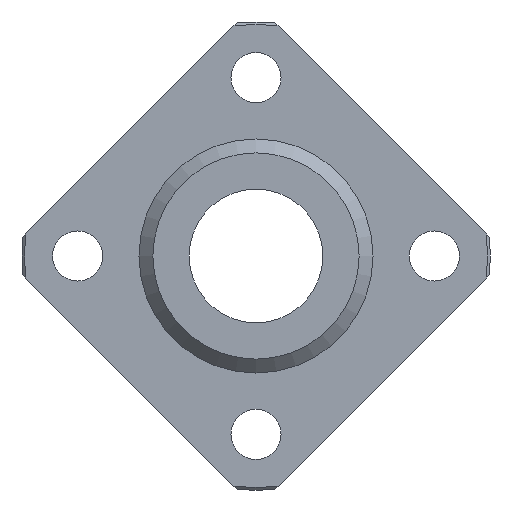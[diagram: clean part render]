
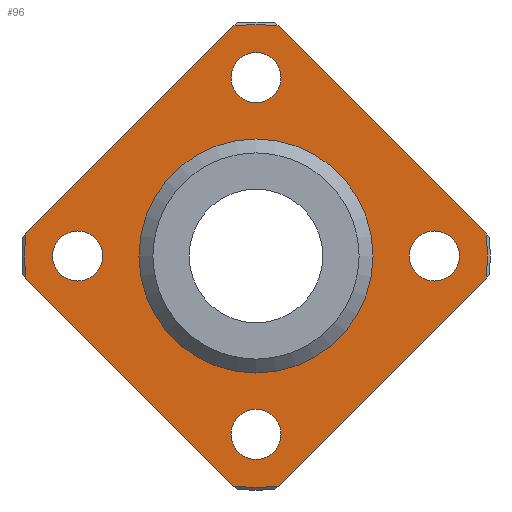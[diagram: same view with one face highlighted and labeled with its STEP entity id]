
A CAD part, left-side view. The second image highlights one B-rep face of the part: STEP entity #96.
In plain terms, the highlighted planar face has unit normal (-1, 0, 0).
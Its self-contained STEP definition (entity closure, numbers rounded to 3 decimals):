
#96=ADVANCED_FACE('',(#161,#162,#163,#164,#165,#166),#167,.F.);
#161=FACE_BOUND('',#255,.T.);
#162=FACE_BOUND('',#256,.T.);
#163=FACE_BOUND('',#257,.T.);
#164=FACE_BOUND('',#258,.T.);
#165=FACE_BOUND('',#259,.T.);
#166=FACE_OUTER_BOUND('',#260,.T.);
#167=PLANE('',#261);
#255=EDGE_LOOP('',(#462));
#256=EDGE_LOOP('',(#463));
#257=EDGE_LOOP('',(#464));
#258=EDGE_LOOP('',(#465));
#259=EDGE_LOOP('',(#466));
#260=EDGE_LOOP('',(#467,#468,#469,#470,#471,#472,#473,#474));
#261=AXIS2_PLACEMENT_3D('',#475,#476,#477);
#462=ORIENTED_EDGE('',*,*,#597,.T.);
#463=ORIENTED_EDGE('',*,*,#598,.T.);
#464=ORIENTED_EDGE('',*,*,#599,.T.);
#465=ORIENTED_EDGE('',*,*,#596,.T.);
#466=ORIENTED_EDGE('',*,*,#594,.F.);
#467=ORIENTED_EDGE('',*,*,#592,.T.);
#468=ORIENTED_EDGE('',*,*,#540,.T.);
#469=ORIENTED_EDGE('',*,*,#591,.T.);
#470=ORIENTED_EDGE('',*,*,#566,.T.);
#471=ORIENTED_EDGE('',*,*,#588,.T.);
#472=ORIENTED_EDGE('',*,*,#558,.T.);
#473=ORIENTED_EDGE('',*,*,#546,.T.);
#474=ORIENTED_EDGE('',*,*,#552,.T.);
#475=CARTESIAN_POINT('',(-9.0,20.746,0.0));
#476=DIRECTION('',(1.0,0.0,0.0));
#477=DIRECTION('',(0.0,0.0,-1.0));
#540=EDGE_CURVE('',#612,#610,#613,.T.);
#546=EDGE_CURVE('',#623,#624,#625,.T.);
#552=EDGE_CURVE('',#624,#634,#636,.T.);
#558=EDGE_CURVE('',#646,#623,#647,.T.);
#566=EDGE_CURVE('',#662,#660,#663,.T.);
#588=EDGE_CURVE('',#660,#646,#694,.T.);
#591=EDGE_CURVE('',#610,#662,#699,.T.);
#592=EDGE_CURVE('',#634,#612,#700,.T.);
#594=EDGE_CURVE('',#703,#703,#704,.T.);
#596=EDGE_CURVE('',#707,#707,#708,.T.);
#597=EDGE_CURVE('',#709,#709,#710,.T.);
#598=EDGE_CURVE('',#711,#711,#712,.T.);
#599=EDGE_CURVE('',#713,#713,#714,.T.);
#610=VERTEX_POINT('',#733);
#612=VERTEX_POINT('',#738);
#613=LINE('',#739,#740);
#623=VERTEX_POINT('',#761);
#624=VERTEX_POINT('',#762);
#625=CIRCLE('',#763,20.746);
#634=VERTEX_POINT('',#779);
#636=LINE('',#784,#785);
#646=VERTEX_POINT('',#804);
#647=LINE('',#805,#806);
#660=VERTEX_POINT('',#831);
#662=VERTEX_POINT('',#836);
#663=LINE('',#837,#838);
#694=CIRCLE('',#880,20.746);
#699=CIRCLE('',#885,20.746);
#700=CIRCLE('',#886,20.746);
#703=VERTEX_POINT('',#889);
#704=CIRCLE('',#890,10.5);
#707=VERTEX_POINT('',#893);
#708=CIRCLE('',#894,2.25);
#709=VERTEX_POINT('',#895);
#710=CIRCLE('',#896,2.25);
#711=VERTEX_POINT('',#897);
#712=CIRCLE('',#898,2.25);
#713=VERTEX_POINT('',#899);
#714=CIRCLE('',#900,2.25);
#733=CARTESIAN_POINT('',(-9.0,1.976,-20.652));
#738=CARTESIAN_POINT('',(-9.0,20.652,-1.976));
#739=CARTESIAN_POINT('',(-9.0,21.687,-0.941));
#740=VECTOR('',#916,1.0);
#761=CARTESIAN_POINT('',(-9.0,-1.976,20.652));
#762=CARTESIAN_POINT('',(-9.0,1.976,20.652));
#763=AXIS2_PLACEMENT_3D('',#919,#920,#921);
#779=CARTESIAN_POINT('',(-9.0,20.652,1.976));
#784=CARTESIAN_POINT('',(-9.0,21.687,0.941));
#785=VECTOR('',#926,1.0);
#804=CARTESIAN_POINT('',(-9.0,-20.652,1.976));
#805=CARTESIAN_POINT('',(-9.0,-0.941,21.687));
#806=VECTOR('',#930,1.0);
#831=CARTESIAN_POINT('',(-9.0,-20.652,-1.976));
#836=CARTESIAN_POINT('',(-9.0,-1.976,-20.652));
#837=CARTESIAN_POINT('',(-9.0,-0.941,-21.687));
#838=VECTOR('',#934,1.0);
#880=AXIS2_PLACEMENT_3D('',#985,#986,#987);
#885=AXIS2_PLACEMENT_3D('',#994,#995,#996);
#886=AXIS2_PLACEMENT_3D('',#997,#998,#999);
#889=CARTESIAN_POINT('',(-9.0,0.0,10.5));
#890=AXIS2_PLACEMENT_3D('',#1003,#1004,#1005);
#893=CARTESIAN_POINT('',(-9.0,0.0,13.75));
#894=AXIS2_PLACEMENT_3D('',#1009,#1010,#1011);
#895=CARTESIAN_POINT('',(-9.0,-16.0,-2.25));
#896=AXIS2_PLACEMENT_3D('',#1012,#1013,#1014);
#897=CARTESIAN_POINT('',(-9.0,0.0,-18.25));
#898=AXIS2_PLACEMENT_3D('',#1015,#1016,#1017);
#899=CARTESIAN_POINT('',(-9.0,16.0,-2.25));
#900=AXIS2_PLACEMENT_3D('',#1018,#1019,#1020);
#916=DIRECTION('',(0.0,-0.707,-0.707));
#919=CARTESIAN_POINT('',(-9.0,0.0,0.0));
#920=DIRECTION('',(-1.0,0.0,0.0));
#921=DIRECTION('',(0.0,0.0,1.0));
#926=DIRECTION('',(0.0,0.707,-0.707));
#930=DIRECTION('',(0.0,0.707,0.707));
#934=DIRECTION('',(0.0,-0.707,0.707));
#985=CARTESIAN_POINT('',(-9.0,0.0,0.0));
#986=DIRECTION('',(-1.0,0.0,0.0));
#987=DIRECTION('',(0.0,0.0,1.0));
#994=CARTESIAN_POINT('',(-9.0,0.0,0.0));
#995=DIRECTION('',(-1.0,0.0,0.0));
#996=DIRECTION('',(0.0,0.0,1.0));
#997=CARTESIAN_POINT('',(-9.0,0.0,0.0));
#998=DIRECTION('',(-1.0,0.0,0.0));
#999=DIRECTION('',(0.0,0.0,1.0));
#1003=CARTESIAN_POINT('',(-9.0,0.0,0.0));
#1004=DIRECTION('',(-1.0,0.0,0.0));
#1005=DIRECTION('',(0.0,0.0,1.0));
#1009=CARTESIAN_POINT('',(-9.0,0.0,16.0));
#1010=DIRECTION('',(1.0,0.0,0.0));
#1011=DIRECTION('',(0.0,0.0,-1.0));
#1012=CARTESIAN_POINT('',(-9.0,-16.0,0.0));
#1013=DIRECTION('',(1.0,0.0,0.0));
#1014=DIRECTION('',(0.0,0.0,-1.0));
#1015=CARTESIAN_POINT('',(-9.0,0.0,-16.0));
#1016=DIRECTION('',(1.0,0.0,0.0));
#1017=DIRECTION('',(0.0,0.0,-1.0));
#1018=CARTESIAN_POINT('',(-9.0,16.0,0.0));
#1019=DIRECTION('',(1.0,0.0,0.0));
#1020=DIRECTION('',(0.0,0.0,-1.0));
